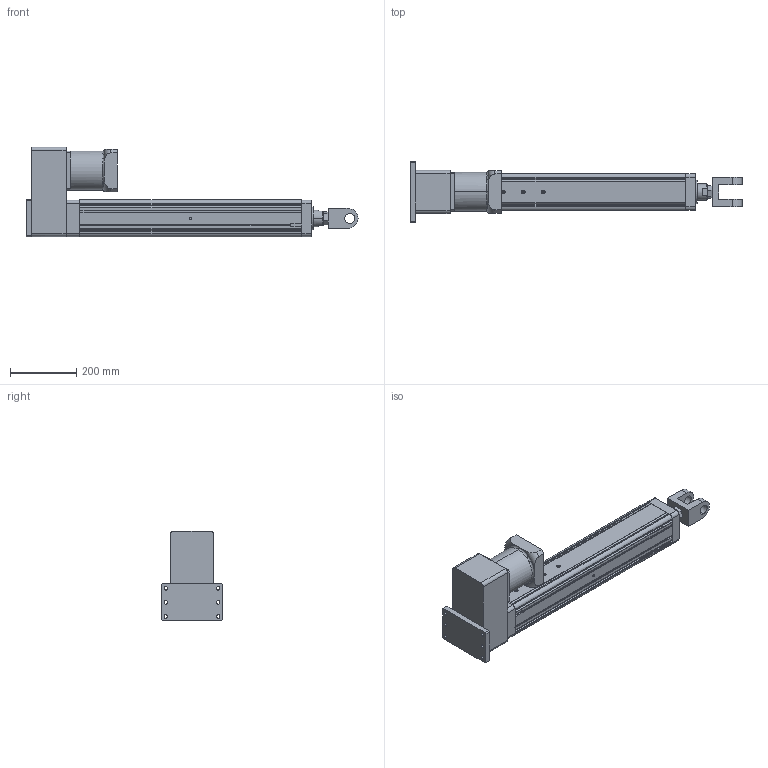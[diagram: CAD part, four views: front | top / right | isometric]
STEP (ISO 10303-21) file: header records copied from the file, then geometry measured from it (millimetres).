
FILE_DESCRIPTION (( 'STEP AP203' ), '1' );
FILE_NAME ('YRJ110-L500-H4K4.STEP', '2020-01-06T01:44:34', ( 'User' ), ( 'China' ), 'SwSTEP 2.0', 'SolidWorks 2016', '' );
FILE_SCHEMA (( 'CONFIG_CONTROL_DESIGN' ));
Length unit declared in the file: millimetre
Products named in the file (8): YRJ110-L500-H4K4; 095-100俴最倰第; H5-110-1; 萇儂碟-110; K4-110; H3-110-2; H4-110; 120遺1500W珨撰熬厒儂
Assembly tree (7 placements, depth 2):
  YRJ110-L500-H4K4
    095-100俴最倰第
    H5-110-1
    萇儂碟-110
    K4-110
    H3-110-2
    H4-110
    120遺1500W珨撰熬厒儂
Bounding box: 1002 x 185 x 271 mm (x, y, z)
Volume: 9716527.9 mm3; surface area: 1037392.9 mm2
Topology: 7 solids, 7 shells, 340 faces, 919 edges, 589 vertices
Faces by surface type: plane 174, cylinder 128, cone 29, torus 5, bspline 4
Entity records: 11853 total; most frequent: CARTESIAN_POINT 2306, DIRECTION 1845, ORIENTED_EDGE 1806, EDGE_CURVE 903, AXIS2_PLACEMENT_3D 634, VERTEX_POINT 589, VECTOR 577, LINE 577
